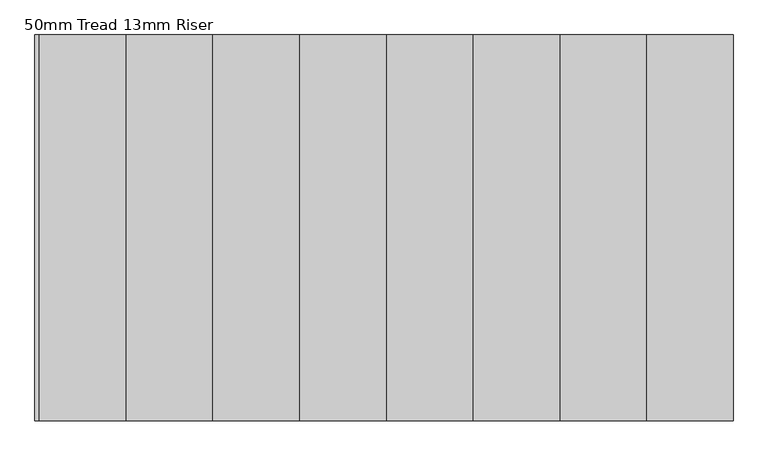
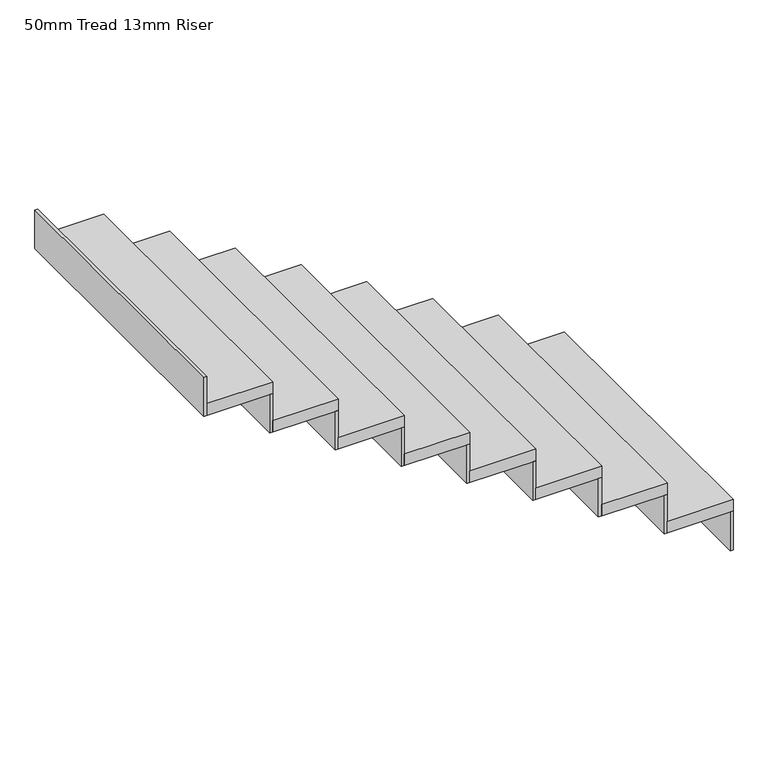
"""IFC4 building model written with IfcOpenShell, lengths in millimetres: stair flight geometry, 50mm Tread 13mm Riser."""

from ifc_helpers import new_model, si_unit, frame, origin, place, context, project, spatial, polyline, outline, extrude, source, transform, mapped, element, save


def stair_flight_50mm_tread_13mm_riser_1ab12aa5(model_context):
    return source(origin(), model_context, "Body", "SweptSolid", [
        extrude(outline(polyline([(-100110.3719448, 38178.2777512), (-100097.8719448, 38178.2777512), (-100097.8719448, 36978.2777512), (-100110.3719448, 36978.2777512), (-100110.3719448, 38178.2777512)])), frame((0.0, 0.0, 43597.5), z_axis=(0.0, 0.0, 1.0), x_axis=(1.0, 0.0, 0.0)), (0.0, 0.0, 1.0), 167.5),
        extrude(outline(polyline([(-100367.8719448, 36978.2777512), (-100367.8719448, 38178.2777512), (-100097.8719448, 38178.2777512), (-100097.8719448, 36978.2777512), (-100367.8719448, 36978.2777512)])), frame((0.0, 0.0, 43765.0), z_axis=(0.0, 0.0, 1.0), x_axis=(1.0, 0.0, 0.0)), (0.0, 0.0, 1.0), 50.0),
        extrude(outline(polyline([(-100380.3719448, 38178.2777512), (-100367.8719448, 38178.2777512), (-100367.8719448, 36978.2777512), (-100380.3719448, 36978.2777512), (-100380.3719448, 38178.2777512)])), frame((0.0, 0.0, 43765.0), z_axis=(0.0, 0.0, 1.0), x_axis=(1.0, 0.0, 0.0)), (0.0, 0.0, 1.0), 167.5),
        extrude(outline(polyline([(-100637.8719448, 36978.2777512), (-100637.8719448, 38178.2777512), (-100367.8719448, 38178.2777512), (-100367.8719448, 36978.2777512), (-100637.8719448, 36978.2777512)])), frame((0.0, 0.0, 43932.5), z_axis=(0.0, 0.0, 1.0), x_axis=(1.0, 0.0, 0.0)), (0.0, 0.0, 1.0), 50.0),
        extrude(outline(polyline([(-100650.3719448, 38178.2777512), (-100637.8719448, 38178.2777512), (-100637.8719448, 36978.2777512), (-100650.3719448, 36978.2777512), (-100650.3719448, 38178.2777512)])), frame((0.0, 0.0, 43932.5), z_axis=(0.0, 0.0, 1.0), x_axis=(1.0, 0.0, 0.0)), (0.0, 0.0, 1.0), 167.5),
        extrude(outline(polyline([(-100907.8719448, 36978.2777512), (-100907.8719448, 38178.2777512), (-100637.8719448, 38178.2777512), (-100637.8719448, 36978.2777512), (-100907.8719448, 36978.2777512)])), frame((0.0, 0.0, 44100.0), z_axis=(0.0, 0.0, 1.0), x_axis=(1.0, 0.0, 0.0)), (0.0, 0.0, 1.0), 50.0),
        extrude(outline(polyline([(-100920.3719448, 38178.2777512), (-100907.8719448, 38178.2777512), (-100907.8719448, 36978.2777512), (-100920.3719448, 36978.2777512), (-100920.3719448, 38178.2777512)])), frame((0.0, 0.0, 44100.0), z_axis=(0.0, 0.0, 1.0), x_axis=(1.0, 0.0, 0.0)), (0.0, 0.0, 1.0), 167.5),
        extrude(outline(polyline([(-101177.8719448, 36978.2777512), (-101177.8719448, 38178.2777512), (-100907.8719448, 38178.2777512), (-100907.8719448, 36978.2777512), (-101177.8719448, 36978.2777512)])), frame((0.0, 0.0, 44267.5), z_axis=(0.0, 0.0, 1.0), x_axis=(1.0, 0.0, 0.0)), (0.0, 0.0, 1.0), 50.0),
        extrude(outline(polyline([(-101190.3719448, 38178.2777512), (-101177.8719448, 38178.2777512), (-101177.8719448, 36978.2777512), (-101190.3719448, 36978.2777512), (-101190.3719448, 38178.2777512)])), frame((0.0, 0.0, 44267.5), z_axis=(0.0, 0.0, 1.0), x_axis=(1.0, 0.0, 0.0)), (0.0, 0.0, 1.0), 167.5),
        extrude(outline(polyline([(-101447.8719448, 36978.2777512), (-101447.8719448, 38178.2777512), (-101177.8719448, 38178.2777512), (-101177.8719448, 36978.2777512), (-101447.8719448, 36978.2777512)])), frame((0.0, 0.0, 44435.0), z_axis=(0.0, 0.0, 1.0), x_axis=(1.0, 0.0, 0.0)), (0.0, 0.0, 1.0), 50.0),
        extrude(outline(polyline([(-101460.3719448, 38178.2777512), (-101447.8719448, 38178.2777512), (-101447.8719448, 36978.2777512), (-101460.3719448, 36978.2777512), (-101460.3719448, 38178.2777512)])), frame((0.0, 0.0, 44435.0), z_axis=(0.0, 0.0, 1.0), x_axis=(1.0, 0.0, 0.0)), (0.0, 0.0, 1.0), 167.5),
        extrude(outline(polyline([(-101717.8719448, 36978.2777512), (-101717.8719448, 38178.2777512), (-101447.8719448, 38178.2777512), (-101447.8719448, 36978.2777512), (-101717.8719448, 36978.2777512)])), frame((0.0, 0.0, 44602.5), z_axis=(0.0, 0.0, 1.0), x_axis=(1.0, 0.0, 0.0)), (0.0, 0.0, 1.0), 50.0),
        extrude(outline(polyline([(-101730.3719448, 38178.2777512), (-101717.8719448, 38178.2777512), (-101717.8719448, 36978.2777512), (-101730.3719448, 36978.2777512), (-101730.3719448, 38178.2777512)])), frame((0.0, 0.0, 44602.5), z_axis=(0.0, 0.0, 1.0), x_axis=(1.0, 0.0, 0.0)), (0.0, 0.0, 1.0), 167.5),
        extrude(outline(polyline([(-101987.8719448, 36978.2777512), (-101987.8719448, 38178.2777512), (-101717.8719448, 38178.2777512), (-101717.8719448, 36978.2777512), (-101987.8719448, 36978.2777512)])), frame((0.0, 0.0, 44770.0), z_axis=(0.0, 0.0, 1.0), x_axis=(1.0, 0.0, 0.0)), (0.0, 0.0, 1.0), 50.0),
        extrude(outline(polyline([(-102000.3719448, 38178.2777512), (-101987.8719448, 38178.2777512), (-101987.8719448, 36978.2777512), (-102000.3719448, 36978.2777512), (-102000.3719448, 38178.2777512)])), frame((0.0, 0.0, 44770.0), z_axis=(0.0, 0.0, 1.0), x_axis=(1.0, 0.0, 0.0)), (0.0, 0.0, 1.0), 167.5),
        extrude(outline(polyline([(-102270.3719448, 38178.2777512), (-102257.8719448, 38178.2777512), (-102257.8719448, 36978.2777512), (-102270.3719448, 36978.2777512), (-102270.3719448, 38178.2777512)])), frame((0.0, 0.0, 44937.5), z_axis=(0.0, 0.0, 1.0), x_axis=(1.0, 0.0, 0.0)), (0.0, 0.0, 1.0), 167.5),
        extrude(outline(polyline([(-102257.8719448, 36978.2777512), (-102257.8719448, 38178.2777512), (-101987.8719448, 38178.2777512), (-101987.8719448, 36978.2777512), (-102257.8719448, 36978.2777512)])), frame((0.0, 0.0, 44937.5), z_axis=(0.0, 0.0, 1.0), x_axis=(1.0, 0.0, 0.0)), (0.0, 0.0, 1.0), 50.0),
    ])


if __name__ == "__main__":
    model = new_model("IFC4")
    model_context = context("Model", 3, world=origin())
    ifc_project = project(units=[si_unit("LENGTHUNIT", "METRE", prefix="MILLI")], contexts=[model_context])
    site = spatial("IfcSite", under=ifc_project)
    building = spatial("IfcBuilding", under=site)
    placement = place(None, origin())
    stair_flight_50mm_tread_13mm_riser_shape = stair_flight_50mm_tread_13mm_riser_1ab12aa5(model_context)
    element("IfcStairFlight", 1, ObjectType="50mm Tread 13mm Riser", at=placement, inside=building, context=model_context, shape_type="MappedRepresentation", body=[
        mapped(stair_flight_50mm_tread_13mm_riser_shape, transform((0.0, 0.0, 0.0), x_axis=(1.0, 0.0, 0.0), y_axis=(0.0, 1.0, 0.0), z_axis=(0.0, 0.0, 1.0))),
    ])
    save(model, "model.ifc")
